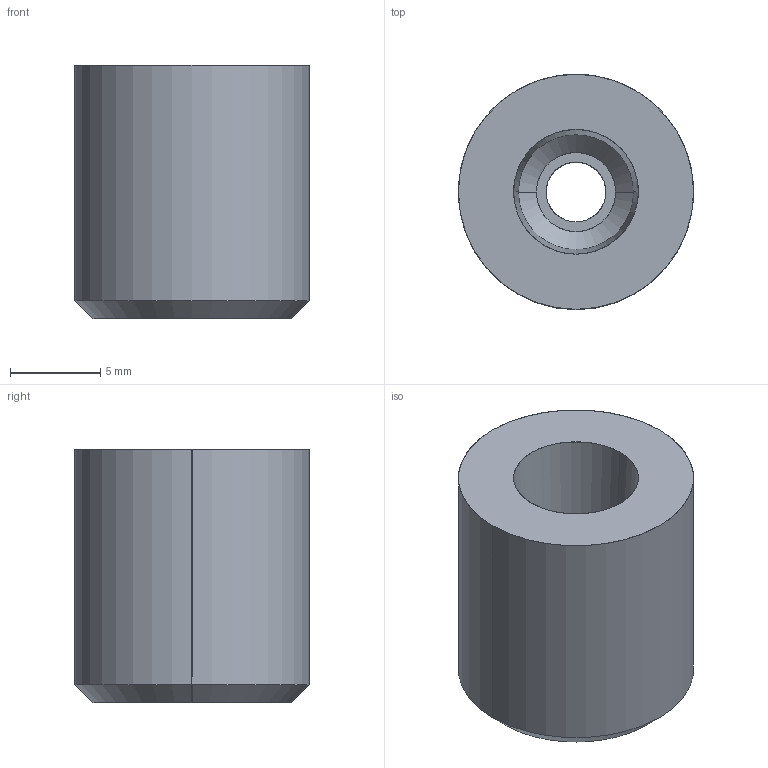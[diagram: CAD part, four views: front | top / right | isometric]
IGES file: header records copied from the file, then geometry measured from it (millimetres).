
Start section: SolidWorks IGES file using analytic representation for surfaces
Global section: file name: D:\Current\W1\ZTPN\ZTPN13-3\ZTPNB13-3.IGS; native system: SolidWorks 2017; preprocessor: SolidWorks 2017; author: Ravi Kalvai; date: 240604.103733; units: millimetre
Bounding box: 13 x 13 x 14 mm (x, y, z)
Surface area: 1003 mm2 (no closed solid volume)
Topology: 0 solids, 0 shells, 15 faces, 240 edges, 240 vertices
Faces by surface type: revolution 12, bspline 3
